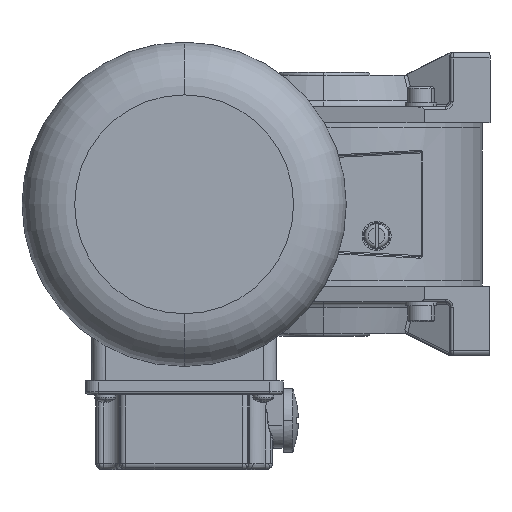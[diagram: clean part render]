
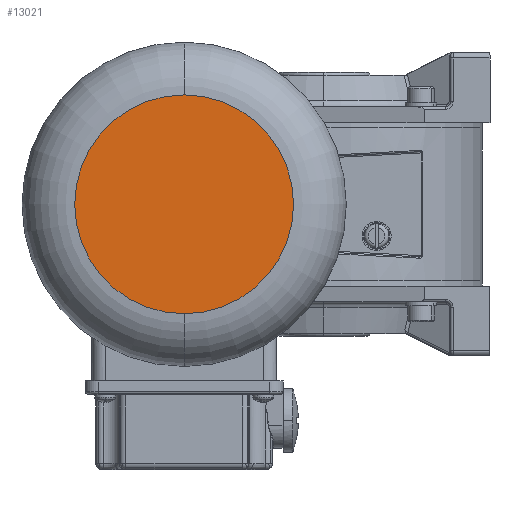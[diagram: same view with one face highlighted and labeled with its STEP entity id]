
A CAD part, left-side view. The second image highlights one B-rep face of the part: STEP entity #13021.
In plain terms, the highlighted planar face has unit normal (-1, 0, 0).
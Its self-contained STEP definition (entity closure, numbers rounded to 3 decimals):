
#842 = VERTEX_POINT ( 'NONE', #3805 ) ;
#962 = AXIS2_PLACEMENT_3D ( 'NONE', #10240, #28271, #28405 ) ;
#1364 = CARTESIAN_POINT ( 'NONE',  ( 0., 0., 0. ) ) ;
#1887 = VERTEX_POINT ( 'NONE', #28765 ) ;
#2724 = EDGE_LOOP ( 'NONE', ( #10764, #3825 ) ) ;
#3805 = CARTESIAN_POINT ( 'NONE',  ( 0., 0., -41.5 ) ) ;
#3825 = ORIENTED_EDGE ( 'NONE', *, *, #13413, .T. ) ;
#5554 = CARTESIAN_POINT ( 'NONE',  ( 0., 0., 0. ) ) ;
#6029 = CIRCLE ( 'NONE', #8392, 41.5 ) ;
#7474 = FACE_OUTER_BOUND ( 'NONE', #2724, .T. ) ;
#8392 = AXIS2_PLACEMENT_3D ( 'NONE', #1364, #21758, #28106 ) ;
#10240 = CARTESIAN_POINT ( 'NONE',  ( 0., 0., 0. ) ) ;
#10764 = ORIENTED_EDGE ( 'NONE', *, *, #27735, .T. ) ;
#13021 = ADVANCED_FACE ( 'NONE', ( #7474 ), #16597, .F. ) ;
#13413 = EDGE_CURVE ( 'NONE', #1887, #842, #6029, .T. ) ;
#16597 = PLANE ( 'NONE',  #21673 ) ;
#18872 = CIRCLE ( 'NONE', #962, 41.5 ) ;
#21673 = AXIS2_PLACEMENT_3D ( 'NONE', #5554, #25632, #23423 ) ;
#21758 = DIRECTION ( 'NONE',  ( -1., 0., 0. ) ) ;
#23423 = DIRECTION ( 'NONE',  ( 0., 0., -1. ) ) ;
#25632 = DIRECTION ( 'NONE',  ( 1., 0., 0. ) ) ;
#27735 = EDGE_CURVE ( 'NONE', #842, #1887, #18872, .T. ) ;
#28106 = DIRECTION ( 'NONE',  ( 0., 0., -1. ) ) ;
#28271 = DIRECTION ( 'NONE',  ( -1., 0., 0. ) ) ;
#28405 = DIRECTION ( 'NONE',  ( 0., 0., -1. ) ) ;
#28765 = CARTESIAN_POINT ( 'NONE',  ( 0., 0., 41.5 ) ) ;
